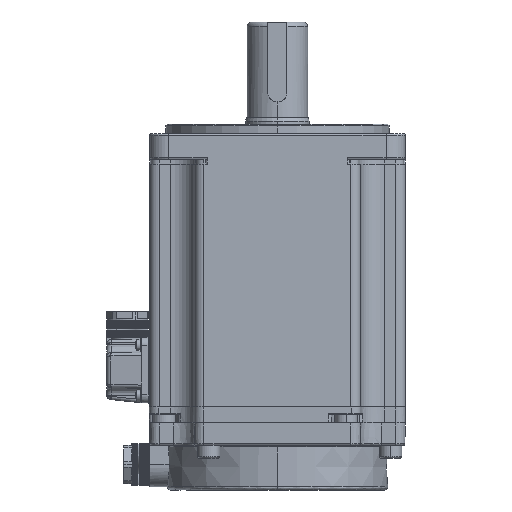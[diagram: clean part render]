
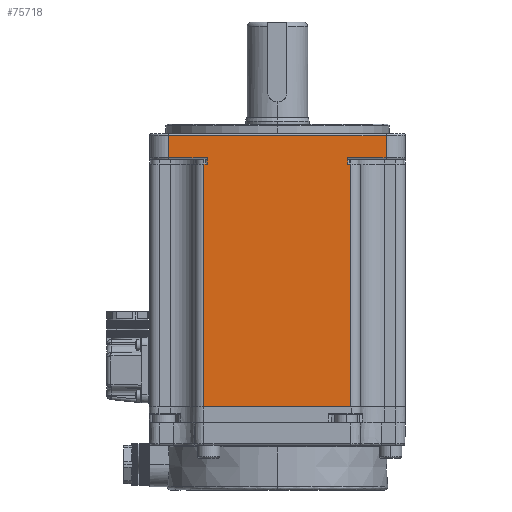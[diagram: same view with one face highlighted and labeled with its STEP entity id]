
A CAD part, left-side view. The second image highlights one B-rep face of the part: STEP entity #75718.
In plain terms, the highlighted planar face has unit normal (-1, 0, 0).
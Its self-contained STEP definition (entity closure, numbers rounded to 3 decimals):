
#749 = LINE ( 'NONE', #34354, #37895 ) ;
#813 = DIRECTION ( 'NONE',  ( 0., 1., 0. ) ) ;
#1287 = VECTOR ( 'NONE', #86494, 1000. ) ;
#1580 = ORIENTED_EDGE ( 'NONE', *, *, #40469, .T. ) ;
#3056 = ORIENTED_EDGE ( 'NONE', *, *, #63348, .T. ) ;
#3982 = ORIENTED_EDGE ( 'NONE', *, *, #32534, .F. ) ;
#4346 = VECTOR ( 'NONE', #69244, 1000. ) ;
#7841 = CARTESIAN_POINT ( 'NONE',  ( -42.254, 18.296, 118.75 ) ) ;
#8096 = CARTESIAN_POINT ( 'NONE',  ( -42.254, -27.704, 131.25 ) ) ;
#11906 = CARTESIAN_POINT ( 'NONE',  ( -42.254, 29.296, 120.75 ) ) ;
#12148 = ORIENTED_EDGE ( 'NONE', *, *, #50597, .T. ) ;
#13798 = EDGE_LOOP ( 'NONE', ( #3982, #22619, #93766, #12148, #3056, #28237, #69483, #1580, #18041, #23491, #82451, #61872 ) ) ;
#14004 = CARTESIAN_POINT ( 'NONE',  ( -42.254, -38.704, 127.65 ) ) ;
#15683 = CARTESIAN_POINT ( 'NONE',  ( -42.254, -38.704, 131.25 ) ) ;
#16266 = VECTOR ( 'NONE', #29072, 1000. ) ;
#16955 = EDGE_CURVE ( 'NONE', #95949, #88994, #21874, .T. ) ;
#18041 = ORIENTED_EDGE ( 'NONE', *, *, #58245, .T. ) ;
#19627 = VERTEX_POINT ( 'NONE', #59630 ) ;
#21614 = CARTESIAN_POINT ( 'NONE',  ( -42.254, -44.704, 120.75 ) ) ;
#21874 = LINE ( 'NONE', #60306, #96108 ) ;
#22619 = ORIENTED_EDGE ( 'NONE', *, *, #60198, .T. ) ;
#23491 = ORIENTED_EDGE ( 'NONE', *, *, #16955, .T. ) ;
#24140 = LINE ( 'NONE', #62091, #4346 ) ;
#24397 = VERTEX_POINT ( 'NONE', #14004 ) ;
#25263 = VERTEX_POINT ( 'NONE', #48232 ) ;
#26406 = EDGE_CURVE ( 'NONE', #35661, #24397, #38719, .T. ) ;
#27849 = DIRECTION ( 'NONE',  ( 0., 1., 0. ) ) ;
#28237 = ORIENTED_EDGE ( 'NONE', *, *, #26406, .T. ) ;
#29072 = DIRECTION ( 'NONE',  ( 0., -1., 0. ) ) ;
#30378 = VECTOR ( 'NONE', #59980, 1000. ) ;
#30532 = CARTESIAN_POINT ( 'NONE',  ( -42.254, 18.296, 131.25 ) ) ;
#32534 = EDGE_CURVE ( 'NONE', #19627, #50371, #77788, .T. ) ;
#32703 = LINE ( 'NONE', #8096, #30378 ) ;
#34354 = CARTESIAN_POINT ( 'NONE',  ( -42.254, -38.704, 120.75 ) ) ;
#34582 = LINE ( 'NONE', #67414, #71704 ) ;
#34583 = CARTESIAN_POINT ( 'NONE',  ( -42.254, 29.296, 127.65 ) ) ;
#35290 = VECTOR ( 'NONE', #45099, 1000. ) ;
#35439 = PLANE ( 'NONE',  #88702 ) ;
#35661 = VERTEX_POINT ( 'NONE', #96129 ) ;
#36302 = EDGE_CURVE ( 'NONE', #47382, #56613, #77060, .T. ) ;
#37895 = VECTOR ( 'NONE', #71613, 1000. ) ;
#38301 = LINE ( 'NONE', #21614, #16266 ) ;
#38719 = LINE ( 'NONE', #15683, #95562 ) ;
#38829 = EDGE_CURVE ( 'NONE', #82040, #50371, #66215, .T. ) ;
#40469 = EDGE_CURVE ( 'NONE', #91598, #95482, #34582, .T. ) ;
#43236 = DIRECTION ( 'NONE',  ( 0., 0., -1. ) ) ;
#45099 = DIRECTION ( 'NONE',  ( 0., 1., 0. ) ) ;
#45682 = DIRECTION ( 'NONE',  ( 0., 0., -1. ) ) ;
#47382 = VERTEX_POINT ( 'NONE', #92647 ) ;
#47439 = EDGE_CURVE ( 'NONE', #24397, #91598, #47726, .T. ) ;
#47726 = LINE ( 'NONE', #34583, #1287 ) ;
#47735 = FACE_OUTER_BOUND ( 'NONE', #13798, .T. ) ;
#48232 = CARTESIAN_POINT ( 'NONE',  ( -42.254, -26.704, 120.75 ) ) ;
#48712 = VECTOR ( 'NONE', #813, 1000. ) ;
#50371 = VERTEX_POINT ( 'NONE', #96166 ) ;
#50597 = EDGE_CURVE ( 'NONE', #56613, #25263, #24140, .T. ) ;
#52655 = DIRECTION ( 'NONE',  ( 0., 0., 1. ) ) ;
#53050 = CARTESIAN_POINT ( 'NONE',  ( -42.254, 29.296, 127.65 ) ) ;
#56613 = VERTEX_POINT ( 'NONE', #91616 ) ;
#58072 = VECTOR ( 'NONE', #27849, 1000. ) ;
#58245 = EDGE_CURVE ( 'NONE', #95482, #95949, #38301, .T. ) ;
#59630 = CARTESIAN_POINT ( 'NONE',  ( -42.254, -27.704, 42.75 ) ) ;
#59980 = DIRECTION ( 'NONE',  ( 0., 0., 1. ) ) ;
#60198 = EDGE_CURVE ( 'NONE', #19627, #47382, #32703, .T. ) ;
#60306 = CARTESIAN_POINT ( 'NONE',  ( -42.254, 17.296, 131.25 ) ) ;
#61872 = ORIENTED_EDGE ( 'NONE', *, *, #38829, .T. ) ;
#62091 = CARTESIAN_POINT ( 'NONE',  ( -42.254, -26.704, 131.25 ) ) ;
#63348 = EDGE_CURVE ( 'NONE', #25263, #35661, #749, .T. ) ;
#66215 = LINE ( 'NONE', #30532, #81306 ) ;
#67414 = CARTESIAN_POINT ( 'NONE',  ( -42.254, 29.296, 131.25 ) ) ;
#67971 = CARTESIAN_POINT ( 'NONE',  ( -42.254, -44.704, 118.75 ) ) ;
#68449 = LINE ( 'NONE', #67971, #48712 ) ;
#69244 = DIRECTION ( 'NONE',  ( 0., 0., 1. ) ) ;
#69483 = ORIENTED_EDGE ( 'NONE', *, *, #47439, .T. ) ;
#71613 = DIRECTION ( 'NONE',  ( 0., -1., 0. ) ) ;
#71704 = VECTOR ( 'NONE', #45682, 1000. ) ;
#72281 = CARTESIAN_POINT ( 'NONE',  ( -42.254, -44.704, 42.75 ) ) ;
#72741 = CARTESIAN_POINT ( 'NONE',  ( -42.254, -44.704, 131.25 ) ) ;
#74943 = DIRECTION ( 'NONE',  ( 0., 0., -1. ) ) ;
#75718 = ADVANCED_FACE ( 'NONE', ( #47735 ), #35439, .F. ) ;
#77060 = LINE ( 'NONE', #82102, #35290 ) ;
#77788 = LINE ( 'NONE', #72281, #58072 ) ;
#78391 = CARTESIAN_POINT ( 'NONE',  ( -42.254, 17.296, 120.75 ) ) ;
#81306 = VECTOR ( 'NONE', #74943, 1000. ) ;
#82040 = VERTEX_POINT ( 'NONE', #7841 ) ;
#82102 = CARTESIAN_POINT ( 'NONE',  ( -42.254, -44.704, 118.75 ) ) ;
#82393 = DIRECTION ( 'NONE',  ( 0., 0., -1. ) ) ;
#82451 = ORIENTED_EDGE ( 'NONE', *, *, #96169, .T. ) ;
#86494 = DIRECTION ( 'NONE',  ( 0., 1., 0. ) ) ;
#87651 = DIRECTION ( 'NONE',  ( 1., 0., 0. ) ) ;
#88702 = AXIS2_PLACEMENT_3D ( 'NONE', #72741, #87651, #43236 ) ;
#88994 = VERTEX_POINT ( 'NONE', #91902 ) ;
#91598 = VERTEX_POINT ( 'NONE', #53050 ) ;
#91616 = CARTESIAN_POINT ( 'NONE',  ( -42.254, -26.704, 118.75 ) ) ;
#91902 = CARTESIAN_POINT ( 'NONE',  ( -42.254, 17.296, 118.75 ) ) ;
#92647 = CARTESIAN_POINT ( 'NONE',  ( -42.254, -27.704, 118.75 ) ) ;
#93766 = ORIENTED_EDGE ( 'NONE', *, *, #36302, .T. ) ;
#95482 = VERTEX_POINT ( 'NONE', #11906 ) ;
#95562 = VECTOR ( 'NONE', #52655, 1000. ) ;
#95949 = VERTEX_POINT ( 'NONE', #78391 ) ;
#96108 = VECTOR ( 'NONE', #82393, 1000. ) ;
#96129 = CARTESIAN_POINT ( 'NONE',  ( -42.254, -38.704, 120.75 ) ) ;
#96166 = CARTESIAN_POINT ( 'NONE',  ( -42.254, 18.296, 42.75 ) ) ;
#96169 = EDGE_CURVE ( 'NONE', #88994, #82040, #68449, .T. ) ;
